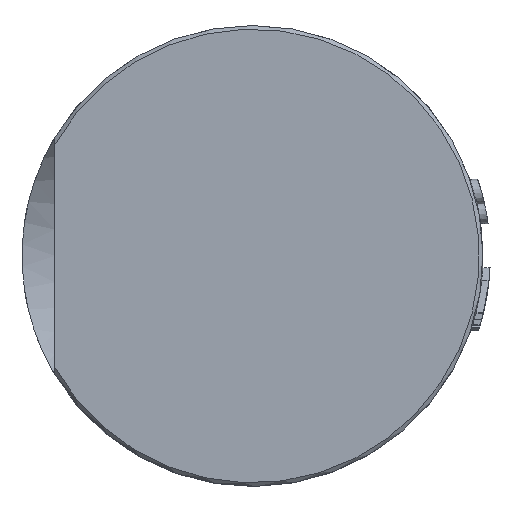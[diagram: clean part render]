
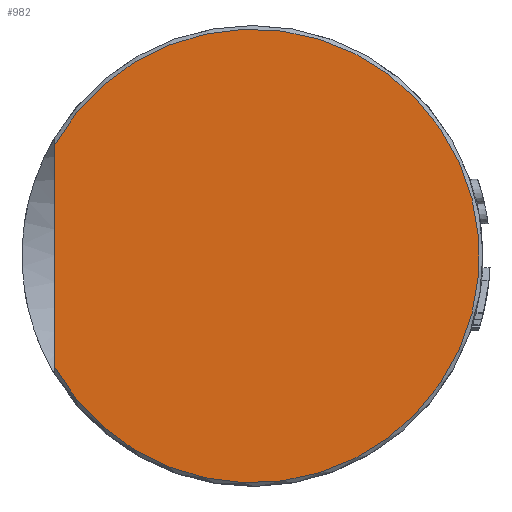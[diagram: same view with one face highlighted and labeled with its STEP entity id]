
A CAD part, front view. The second image highlights one B-rep face of the part: STEP entity #982.
In plain terms, the highlighted planar face has unit normal (0, -1, 0).
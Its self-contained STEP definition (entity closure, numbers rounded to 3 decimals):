
#279=CIRCLE('',#6537,31.);
#556=PLANE('',#6538);
#697=LINE('',#29182,#1363);
#982=ADVANCED_FACE('',(#1652),#556,.T.);
#1363=VECTOR('',#7481,1.);
#1652=FACE_OUTER_BOUND('',#2033,.T.);
#2033=EDGE_LOOP('',(#3490,#3491));
#3490=ORIENTED_EDGE('',*,*,#5391,.T.);
#3491=ORIENTED_EDGE('',*,*,#5392,.F.);
#4515=VERTEX_POINT('',#29180);
#4516=VERTEX_POINT('',#29181);
#5391=EDGE_CURVE('',#4515,#4516,#279,.T.);
#5392=EDGE_CURVE('',#4515,#4516,#697,.T.);
#6537=AXIS2_PLACEMENT_3D('',#29179,#7479,#7480);
#6538=AXIS2_PLACEMENT_3D('',#29183,#7482,#7483);
#7479=DIRECTION('',(0.,-1.,0.));
#7480=DIRECTION('',(0.,0.,-1.));
#7481=DIRECTION('',(0.,0.,1.));
#7482=DIRECTION('',(0.,-1.,0.));
#7483=DIRECTION('',(0.,0.,1.));
#29179=CARTESIAN_POINT('',(0.,-57.,0.));
#29180=CARTESIAN_POINT('',(-27.,-57.,-15.232));
#29181=CARTESIAN_POINT('',(-27.,-57.,15.232));
#29182=CARTESIAN_POINT('',(-27.,-57.,0.));
#29183=CARTESIAN_POINT('',(31.5,-57.,0.));
